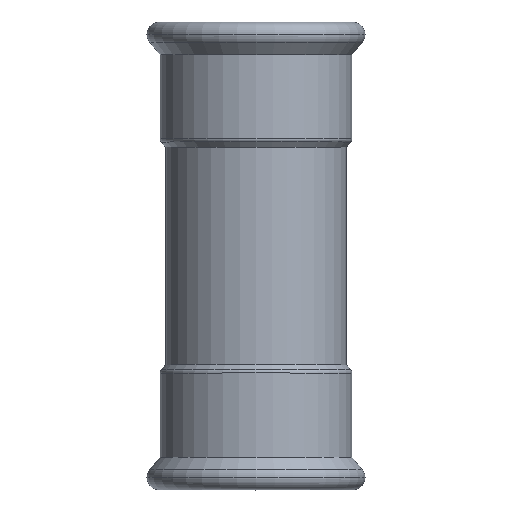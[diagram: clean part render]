
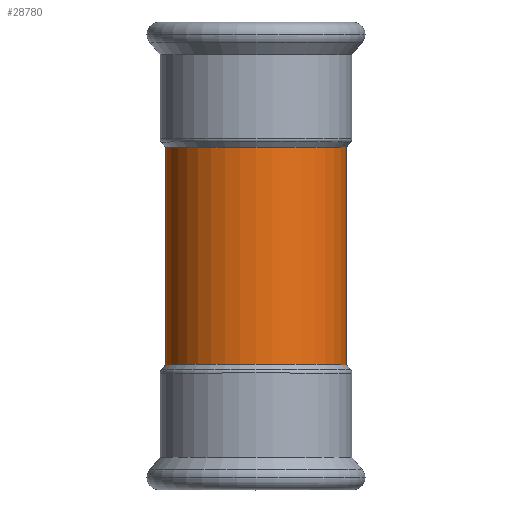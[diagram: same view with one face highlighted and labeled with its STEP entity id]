
A CAD part, top view. The second image highlights one B-rep face of the part: STEP entity #28780.
In plain terms, the highlighted cylindrical face has radius 27 mm (diameter 54 mm), a partial arc.
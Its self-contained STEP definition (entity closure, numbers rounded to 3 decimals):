
#100=CARTESIAN_POINT('',(57.344,193.695,0.));
#110=VERTEX_POINT('',#100);
#290=CARTESIAN_POINT('',(3.344,193.695,
0.));
#300=VERTEX_POINT('',#290);
#330=CARTESIAN_POINT('',(30.344,193.695,0.));
#340=DIRECTION('',(0.,1.,0.));
#350=DIRECTION('',(1.,0.,0.));
#360=AXIS2_PLACEMENT_3D('',#330,#340,#350);
#370=CIRCLE('',#360,27.);
#13790=CARTESIAN_POINT('',(30.344,161.195,0.));
#13800=DIRECTION('',(0.,1.,0.));
#13810=DIRECTION('',(-1.,0.,0.));
#13820=AXIS2_PLACEMENT_3D('',#13790,#13800,#13810);
#13830=CYLINDRICAL_SURFACE('',#13820,27.);
#13840=CARTESIAN_POINT('',(3.344,161.195,0.));
#13850=DIRECTION('',(0.,1.,0.));
#13860=VECTOR('',#13850,1.);
#13870=LINE('',#13840,#13860);
#13880=CARTESIAN_POINT('',(3.344,128.695,0.));
#13890=VERTEX_POINT('',#13880);
#13900=EDGE_CURVE('',#13890,#300,#13870,.T.);
#13920=CARTESIAN_POINT('',(30.344,128.695,0.));
#13930=DIRECTION('',(0.,-1.,0.));
#13940=DIRECTION('',(-1.,0.,0.));
#13950=AXIS2_PLACEMENT_3D('',#13920,#13930,#13940);
#13960=CIRCLE('',#13950,27.);
#13970=CARTESIAN_POINT('',(57.344,128.695,
0.));
#13980=VERTEX_POINT('',#13970);
#14010=CARTESIAN_POINT('',(57.344,161.195,
0.));
#14020=DIRECTION('',(0.,1.,0.));
#14030=VECTOR('',#14020,1.);
#14040=LINE('',#14010,#14030);
#14050=EDGE_CURVE('',#13980,#110,#14040,.T.);
#27570=EDGE_CURVE('',#13980,#13890,#13960,.T.);
#28710=EDGE_CURVE('',#300,#110,#370,.T.);
#28720=ORIENTED_EDGE('',*,*,#28710,.F.);
#28730=ORIENTED_EDGE('',*,*,#14050,.T.);
#28740=ORIENTED_EDGE('',*,*,#27570,.F.);
#28750=ORIENTED_EDGE('',*,*,#13900,.F.);
#28760=EDGE_LOOP('',(#28750,#28740,#28730,#28720));
#28770=FACE_OUTER_BOUND('',#28760,.T.);
#28780=ADVANCED_FACE('',(#28770),#13830,.T.);
